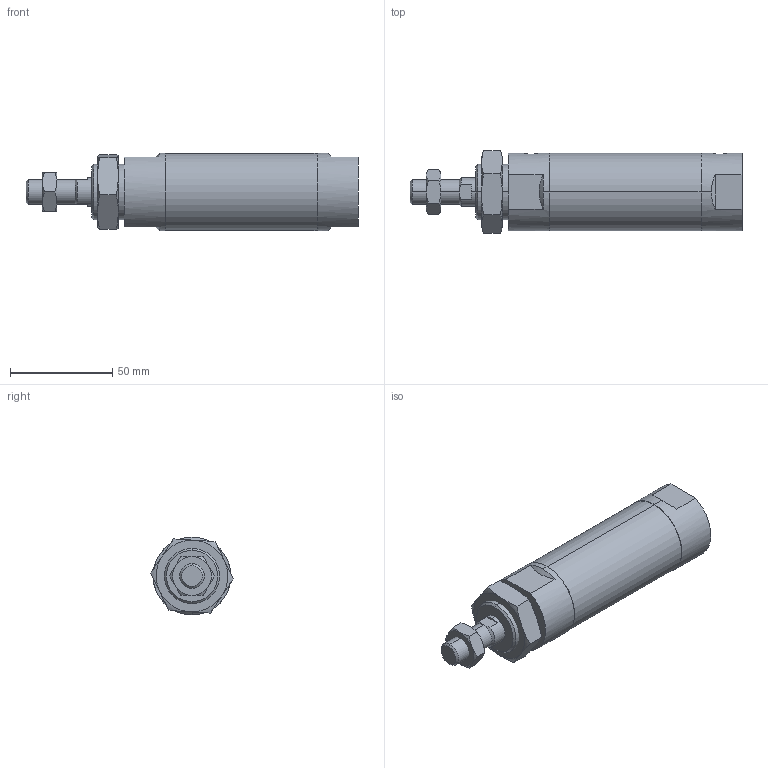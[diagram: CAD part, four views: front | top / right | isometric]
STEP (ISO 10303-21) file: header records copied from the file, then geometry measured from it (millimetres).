
FILE_DESCRIPTION (( 'STEP AP203' ), '1' );
FILE_NAME ('JGND2-32-25-N.STEP', '2016-08-04T02:47:29', ( '' ), ( '' ), 'SwSTEP 2.0', 'SolidWorks 2014', '' );
FILE_SCHEMA (( 'CONFIG_CONTROL_DESIGN' ));
Length unit declared in the file: millimetre
Products named in the file (4): J#2-32-25(P); JGND2-32-25-N
Assembly tree (3 placements, depth 2):
  JGND2-32-25-N
    J#2-32-25(P)
    (unnamed)
    (unnamed)
Bounding box: 162 x 40.33 x 38 mm (x, y, z)
Volume: 143540.4 mm3; surface area: 23669.1 mm2
Topology: 3 solids, 3 shells, 89 faces, 200 edges, 119 vertices
Faces by surface type: plane 32, torus 24, cylinder 20, cone 13
Entity records: 3321 total; most frequent: CARTESIAN_POINT 1017, DIRECTION 395, ORIENTED_EDGE 392, EDGE_CURVE 196, AXIS2_PLACEMENT_3D 167, VERTEX_POINT 119, EDGE_LOOP 99, FACE_OUTER_BOUND 89
